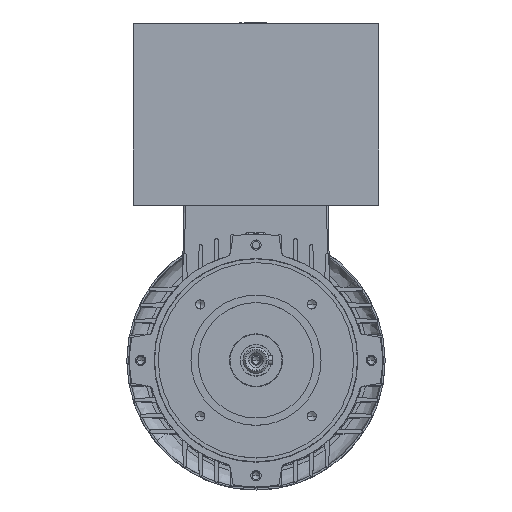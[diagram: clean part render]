
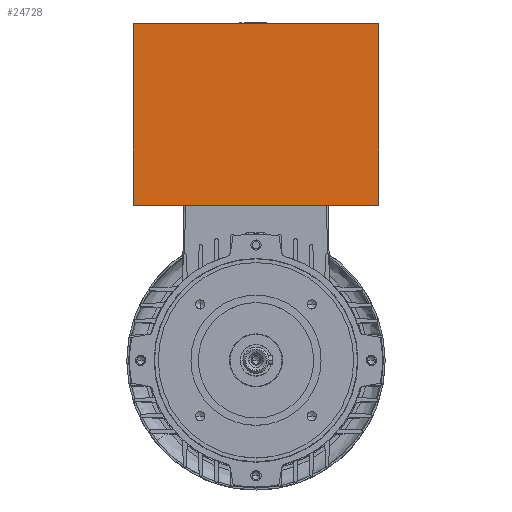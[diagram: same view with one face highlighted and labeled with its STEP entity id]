
A CAD part, top view. The second image highlights one B-rep face of the part: STEP entity #24728.
In plain terms, the highlighted planar face has unit normal (0, 0, 1).
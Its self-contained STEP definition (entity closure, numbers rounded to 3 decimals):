
#67 = DIRECTION ( 'NONE',  ( 0., 0., 1. ) ) ;
#2872 = DIRECTION ( 'NONE',  ( 1., 0., 0. ) ) ;
#3124 = EDGE_CURVE ( 'NONE', #20862, #23957, #20560, .T. ) ;
#4800 = VECTOR ( 'NONE', #10355, 1000. ) ;
#5644 = CARTESIAN_POINT ( 'NONE',  ( -66., 181., 66. ) ) ;
#6063 = FACE_OUTER_BOUND ( 'NONE', #10224, .T. ) ;
#6209 = PLANE ( 'NONE',  #11724 ) ;
#6877 = ORIENTED_EDGE ( 'NONE', *, *, #13658, .F. ) ;
#6925 = ORIENTED_EDGE ( 'NONE', *, *, #24765, .T. ) ;
#8229 = DIRECTION ( 'NONE',  ( 1., 0., 0. ) ) ;
#8378 = VECTOR ( 'NONE', #2872, 1000. ) ;
#8701 = VERTEX_POINT ( 'NONE', #14205 ) ;
#9169 = CARTESIAN_POINT ( 'NONE',  ( -66., 83.5, 66. ) ) ;
#9741 = VECTOR ( 'NONE', #13168, 1000. ) ;
#10224 = EDGE_LOOP ( 'NONE', ( #6925, #6877, #11182, #19824 ) ) ;
#10355 = DIRECTION ( 'NONE',  ( 0., 1., 0. ) ) ;
#11017 = CARTESIAN_POINT ( 'NONE',  ( 66., 181., 66. ) ) ;
#11182 = ORIENTED_EDGE ( 'NONE', *, *, #3124, .F. ) ;
#11724 = AXIS2_PLACEMENT_3D ( 'NONE', #23898, #67, #8229 ) ;
#13168 = DIRECTION ( 'NONE',  ( 0., 1., 0. ) ) ;
#13658 = EDGE_CURVE ( 'NONE', #23957, #15952, #21401, .T. ) ;
#14205 = CARTESIAN_POINT ( 'NONE',  ( 66., 83.5, 66. ) ) ;
#15952 = VERTEX_POINT ( 'NONE', #11017 ) ;
#16016 = VECTOR ( 'NONE', #23032, 1000. ) ;
#16180 = CARTESIAN_POINT ( 'NONE',  ( 66., -107.419, 66. ) ) ;
#16609 = EDGE_CURVE ( 'NONE', #8701, #20862, #24075, .T. ) ;
#18647 = CARTESIAN_POINT ( 'NONE',  ( -66., 83.5, 66. ) ) ;
#19147 = CARTESIAN_POINT ( 'NONE',  ( -66., -107.419, 66. ) ) ;
#19824 = ORIENTED_EDGE ( 'NONE', *, *, #16609, .F. ) ;
#20560 = LINE ( 'NONE', #19147, #9741 ) ;
#20862 = VERTEX_POINT ( 'NONE', #18647 ) ;
#21401 = LINE ( 'NONE', #22676, #8378 ) ;
#22499 = LINE ( 'NONE', #16180, #4800 ) ;
#22676 = CARTESIAN_POINT ( 'NONE',  ( -66., 181., 66. ) ) ;
#23032 = DIRECTION ( 'NONE',  ( -1., 0., 0. ) ) ;
#23898 = CARTESIAN_POINT ( 'NONE',  ( -66., -107.419, 66. ) ) ;
#23957 = VERTEX_POINT ( 'NONE', #5644 ) ;
#24075 = LINE ( 'NONE', #9169, #16016 ) ;
#24728 = ADVANCED_FACE ( 'NONE', ( #6063 ), #6209, .T. ) ;
#24765 = EDGE_CURVE ( 'NONE', #8701, #15952, #22499, .T. ) ;
